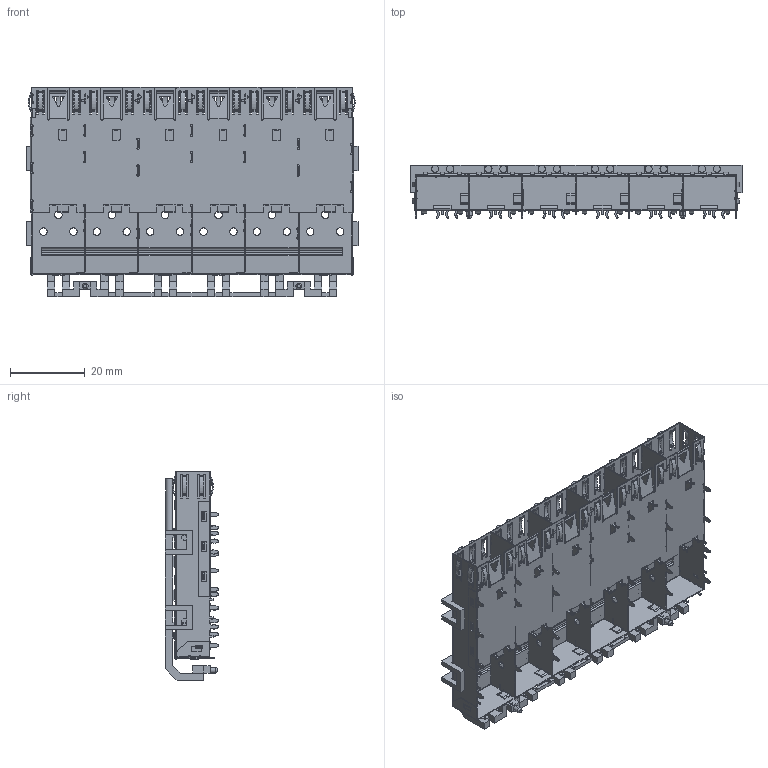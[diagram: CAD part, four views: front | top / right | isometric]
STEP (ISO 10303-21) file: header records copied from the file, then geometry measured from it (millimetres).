
FILE_DESCRIPTION (( 'STEP AP203' ), '1' );
FILE_NAME ('10701516W002 諦誧3D.STEP', '2023-11-13T03:13:30', ( '' ), ( '' ), 'SwSTEP 2.0', 'SolidWorks 2016', '' );
FILE_SCHEMA (( 'CONFIG_CONTROL_DESIGN' ));
Products named in the file (2): 錨璃19^10701516W002 諦誧3D; 10701516W002 諦誧3D
Assembly tree (1 placements, depth 2):
  10701516W002 諦誧3D
    錨璃19^10701516W002 諦誧3D
Bounding box: 88.65 x 14.34 x 55.84 mm (x, y, z)
Volume: 6702.5 mm3; surface area: 30537.5 mm2
Topology: 1 solids, 1 shells, 4335 faces, 13120 edges, 8521 vertices
Faces by surface type: cylinder 2088, plane 2049, bspline 194, cone 4
Entity records: 163758 total; most frequent: CARTESIAN_POINT 50908, ORIENTED_EDGE 26240, DIRECTION 19922, EDGE_CURVE 13120, VERTEX_POINT 8521, VECTOR 7306, LINE 7306, AXIS2_PLACEMENT_3D 6308
